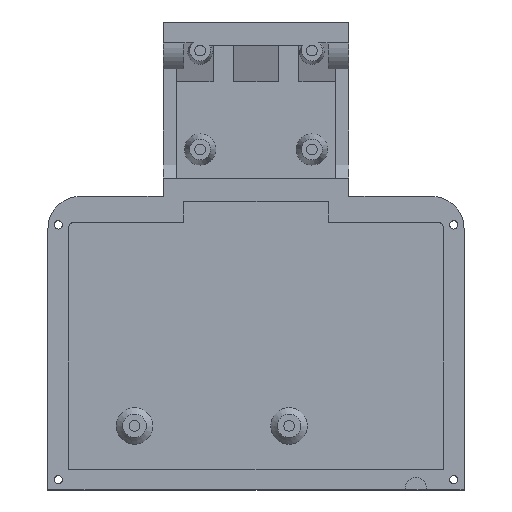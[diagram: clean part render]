
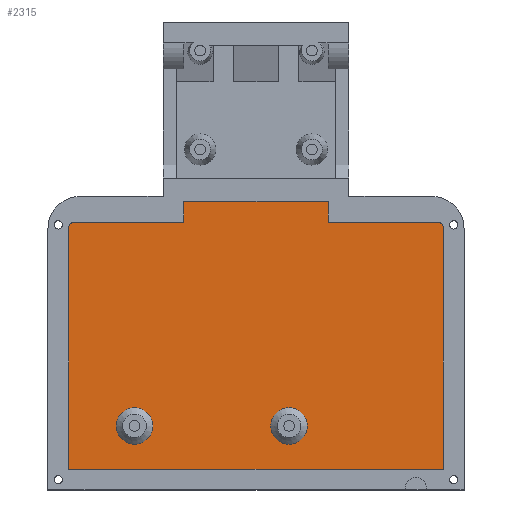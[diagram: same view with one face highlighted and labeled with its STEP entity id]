
A CAD part, top view. The second image highlights one B-rep face of the part: STEP entity #2315.
In plain terms, the highlighted planar face has unit normal (0, 0, 1).
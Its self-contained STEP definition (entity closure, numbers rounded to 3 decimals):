
#62=FACE_BOUND('',#329,.T.);
#63=FACE_BOUND('',#330,.T.);
#100=PLANE('',#2470);
#189=FACE_OUTER_BOUND('',#328,.T.);
#328=EDGE_LOOP('',(#1636,#1637,#1638,#1639,#1640,#1641,#1642,#1643,#1644,
#1645));
#329=EDGE_LOOP('',(#1646));
#330=EDGE_LOOP('',(#1647));
#505=LINE('',#3406,#748);
#506=LINE('',#3408,#749);
#507=LINE('',#3410,#750);
#508=LINE('',#3414,#751);
#509=LINE('',#3416,#752);
#510=LINE('',#3418,#753);
#511=LINE('',#3420,#754);
#512=LINE('',#3422,#755);
#748=VECTOR('',#2706,10.);
#749=VECTOR('',#2707,10.);
#750=VECTOR('',#2708,10.);
#751=VECTOR('',#2711,10.);
#752=VECTOR('',#2712,10.);
#753=VECTOR('',#2713,10.);
#754=VECTOR('',#2714,10.);
#755=VECTOR('',#2715,10.);
#990=CIRCLE('',#2468,7.);
#992=CIRCLE('',#2471,2.);
#993=CIRCLE('',#2472,2.);
#994=CIRCLE('',#2473,7.);
#1077=VERTEX_POINT('',#3398);
#1079=VERTEX_POINT('',#3404);
#1080=VERTEX_POINT('',#3405);
#1081=VERTEX_POINT('',#3407);
#1082=VERTEX_POINT('',#3409);
#1083=VERTEX_POINT('',#3411);
#1084=VERTEX_POINT('',#3413);
#1085=VERTEX_POINT('',#3415);
#1086=VERTEX_POINT('',#3417);
#1087=VERTEX_POINT('',#3419);
#1088=VERTEX_POINT('',#3421);
#1089=VERTEX_POINT('',#3424);
#1296=EDGE_CURVE('',#1077,#1077,#990,.T.);
#1299=EDGE_CURVE('',#1079,#1080,#505,.T.);
#1300=EDGE_CURVE('',#1080,#1081,#506,.T.);
#1301=EDGE_CURVE('',#1081,#1082,#507,.T.);
#1302=EDGE_CURVE('',#1082,#1083,#992,.T.);
#1303=EDGE_CURVE('',#1083,#1084,#508,.T.);
#1304=EDGE_CURVE('',#1084,#1085,#509,.T.);
#1305=EDGE_CURVE('',#1085,#1086,#510,.T.);
#1306=EDGE_CURVE('',#1086,#1087,#511,.T.);
#1307=EDGE_CURVE('',#1087,#1088,#512,.T.);
#1308=EDGE_CURVE('',#1088,#1079,#993,.T.);
#1309=EDGE_CURVE('',#1089,#1089,#994,.T.);
#1636=ORIENTED_EDGE('',*,*,#1299,.T.);
#1637=ORIENTED_EDGE('',*,*,#1300,.T.);
#1638=ORIENTED_EDGE('',*,*,#1301,.T.);
#1639=ORIENTED_EDGE('',*,*,#1302,.T.);
#1640=ORIENTED_EDGE('',*,*,#1303,.T.);
#1641=ORIENTED_EDGE('',*,*,#1304,.T.);
#1642=ORIENTED_EDGE('',*,*,#1305,.T.);
#1643=ORIENTED_EDGE('',*,*,#1306,.T.);
#1644=ORIENTED_EDGE('',*,*,#1307,.T.);
#1645=ORIENTED_EDGE('',*,*,#1308,.T.);
#1646=ORIENTED_EDGE('',*,*,#1309,.F.);
#1647=ORIENTED_EDGE('',*,*,#1296,.F.);
#2315=ADVANCED_FACE('',(#189,#62,#63),#100,.F.);
#2468=AXIS2_PLACEMENT_3D('',#3399,#2699,#2700);
#2470=AXIS2_PLACEMENT_3D('',#3403,#2704,#2705);
#2471=AXIS2_PLACEMENT_3D('',#3412,#2709,#2710);
#2472=AXIS2_PLACEMENT_3D('',#3423,#2716,#2717);
#2473=AXIS2_PLACEMENT_3D('',#3425,#2718,#2719);
#2699=DIRECTION('center_axis',(0.,0.,1.));
#2700=DIRECTION('ref_axis',(-1.,0.,0.));
#2704=DIRECTION('center_axis',(0.,0.,-1.));
#2705=DIRECTION('ref_axis',(-1.,0.,0.));
#2706=DIRECTION('',(0.,-1.,0.));
#2707=DIRECTION('',(1.,0.,0.));
#2708=DIRECTION('',(0.,1.,0.));
#2709=DIRECTION('center_axis',(0.,0.,1.));
#2710=DIRECTION('ref_axis',(0.707,0.707,0.));
#2711=DIRECTION('',(-1.,0.,0.));
#2712=DIRECTION('',(0.,1.,0.));
#2713=DIRECTION('',(-1.,0.,0.));
#2714=DIRECTION('',(0.,-1.,0.));
#2715=DIRECTION('',(-1.,0.,0.));
#2716=DIRECTION('center_axis',(0.,0.,1.));
#2717=DIRECTION('ref_axis',(-0.707,0.707,0.));
#2718=DIRECTION('center_axis',(0.,0.,1.));
#2719=DIRECTION('ref_axis',(-1.,0.,0.));
#3398=CARTESIAN_POINT('',(-39.974,-125.3,-15.916));
#3399=CARTESIAN_POINT('Origin',(-46.974,-125.3,-15.916));
#3403=CARTESIAN_POINT('Origin',(-0.274,-2.5,-15.916));
#3404=CARTESIAN_POINT('',(-72.274,-49.,-15.916));
#3405=CARTESIAN_POINT('',(-72.274,-142.,-15.916));
#3406=CARTESIAN_POINT('',(-72.274,-21.75,-15.916));
#3407=CARTESIAN_POINT('',(71.726,-142.,-15.916));
#3408=CARTESIAN_POINT('',(-40.024,-142.,-15.916));
#3409=CARTESIAN_POINT('',(71.726,-49.,-15.916));
#3410=CARTESIAN_POINT('',(71.726,-68.25,-15.916));
#3411=CARTESIAN_POINT('',(69.726,-47.,-15.916));
#3412=CARTESIAN_POINT('Origin',(69.726,-49.,-15.916));
#3413=CARTESIAN_POINT('',(27.426,-47.,-15.916));
#3414=CARTESIAN_POINT('',(34.476,-47.,-15.916));
#3415=CARTESIAN_POINT('',(27.426,-39.,-15.916));
#3416=CARTESIAN_POINT('',(27.426,-24.75,-15.916));
#3417=CARTESIAN_POINT('',(-27.974,-39.,-15.916));
#3418=CARTESIAN_POINT('',(17.576,-39.,-15.916));
#3419=CARTESIAN_POINT('',(-27.974,-47.,-15.916));
#3420=CARTESIAN_POINT('',(-27.974,-24.25,-15.916));
#3421=CARTESIAN_POINT('',(-70.274,-47.,-15.916));
#3422=CARTESIAN_POINT('',(-18.124,-47.,-15.916));
#3423=CARTESIAN_POINT('Origin',(-70.274,-49.,-15.916));
#3424=CARTESIAN_POINT('',(19.426,-125.3,-15.916));
#3425=CARTESIAN_POINT('Origin',(12.426,-125.3,-15.916));
